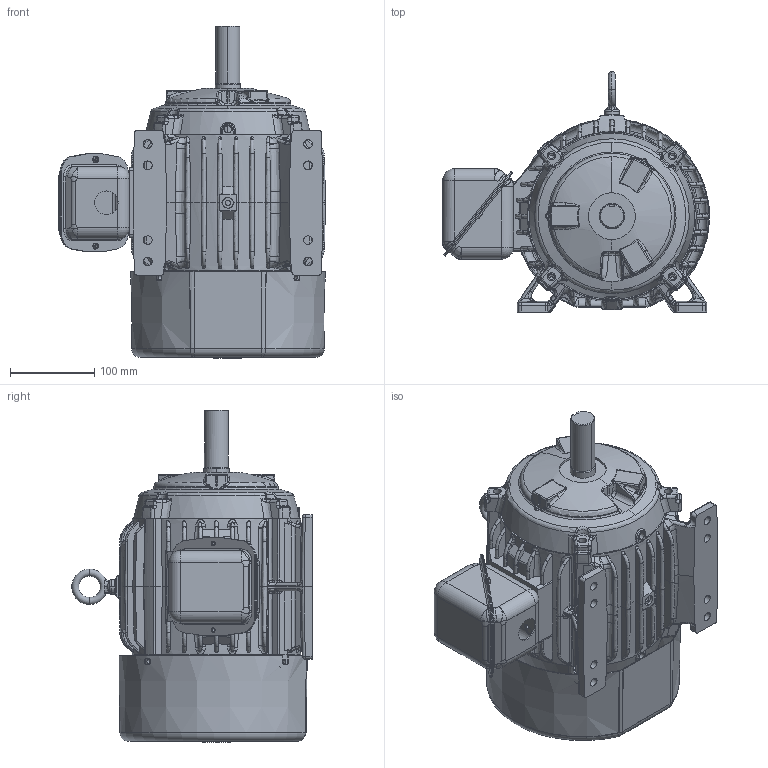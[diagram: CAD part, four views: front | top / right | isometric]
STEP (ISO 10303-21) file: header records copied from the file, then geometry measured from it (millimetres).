
FILE_DESCRIPTION((''),'2;1');
FILE_NAME('GP_ASSY_ASM','2013-01-11T',('emd2341'),('Nidec Motor Corporation'),'PRO/ENGINEER BY PARAMETRIC TECHNOLOGY CORPORATION, 2010140','PRO/ENGINEER BY PARAMETRIC TECHNOLOGY CORPORATION, 2010140','');
FILE_SCHEMA(('CONFIG_CONTROL_DESIGN'));
Length unit declared in the file: inch
Products named in the file (11): 0950019; 0647303; 0541983; 0027197; 0644272; 0647304; 0386847; 0133167; 0378767; 0377668; GP_ASSY_ASM
Assembly tree (11 placements, depth 2):
  GP_ASSY_ASM
    0950019
    0647303
    0541983
    0027197
    0644272
    0647304  x2
    0386847
    0133167
    0378767
    0377668
Bounding box: 317.13 x 285.72 x 394.5 mm (x, y, z)
Volume: 2893862.4 mm3; surface area: 1074681.8 mm2
Topology: 13 solids, 13 shells, 3412 faces, 8199 edges, 4776 vertices
Faces by surface type: bspline 1566, cylinder 547, plane 530, torus 392, sphere 194, cone 183
Entity records: 130701 total; most frequent: CARTESIAN_POINT 75264, ORIENTED_EDGE 13258, DIRECTION 9289, EDGE_CURVE 6629, AXIS2_PLACEMENT_3D 4024, VERTEX_POINT 3913, EDGE_LOOP 2928, B_SPLINE_CURVE_WITH_KNOTS 2917
